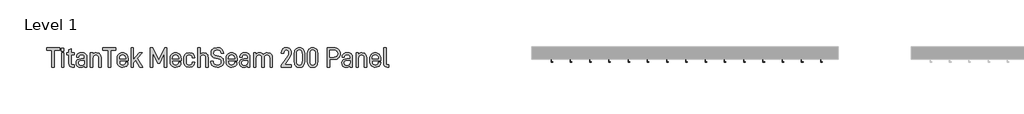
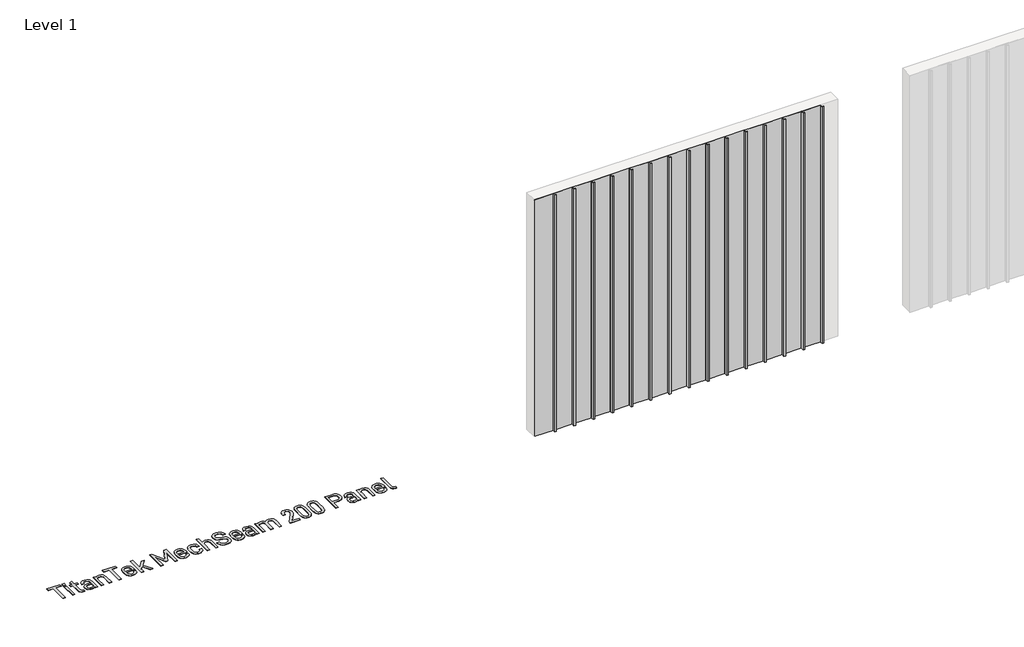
# One storey, part 23 of 33: 2 proxies.
"""IFC4 building model written with IfcOpenShell, lengths in millimetres."""

from ifc_helpers import new_model, si_unit, origin, origin_with_axes, place, context, project, spatial, polyline, outline, extrude, transform, mapped, element, save
from components import titantek_mechseam_200_panel_aluminum_slate_gray_48fcd1a1

model = new_model("IFC4")

# Units and contexts
model_context = context("Model", 3, world=origin())
ifc_project = project(units=[si_unit("LENGTHUNIT", "METRE", prefix="MILLI")], contexts=[model_context])

# Site, building, storey
site = spatial("IfcSite", under=ifc_project)
building = spatial("IfcBuilding", under=site)
storey = spatial("IfcBuildingStorey", under=building, Name="Level 1", Elevation=0.0)

# Proxies
placement = place(None, origin())
element("IfcBuildingElementProxy", 1, Name="600mm Arial 2", ObjectType="600mm Arial 2", at=placement, inside=storey, context=model_context, shape_type="SweptSolid", body=[
    extrude(outline(polyline([(-9914.9924556, 77220.4128343), (-9914.9924556, 76952.9873502), (-9954.4439015, 76952.9873502), (-9954.4439015, 77220.4128343), (-10038.8787304, 77220.4128343), (-10038.8787304, 77257.3166776), (-9830.5576267, 77257.3166776), (-9830.5576267, 77220.4128343), (-9914.9924556, 77220.4128343)])), origin_with_axes(), (0.0, 0.0, 1.0), 5.0),
    extrude(outline(polyline([(-9763.1553408, 77253.0221475), (-9763.1553408, 77205.8551051), (-9802.6067867, 77205.8551051), (-9802.6067867, 77253.0221475), (-9763.1553408, 77253.0221475)])), origin_with_axes(), (0.0, 0.0, 1.0), 5.0),
    extrude(outline(polyline([(-9764.0288046, 77178.8505176), (-9764.0288046, 76952.9873502), (-9801.733323, 76952.9873502), (-9801.733323, 77178.8505176), (-9764.0288046, 77178.8505176)])), origin_with_axes(), (0.0, 0.0, 1.0), 5.0),
    extrude(outline(polyline([(-9648.294858, 77012.601251), (-9646.8208879, 77001.5191797), (-9642.3989777, 76993.6034145), (-9635.0291273, 76988.8539554), (-9624.7113368, 76987.2708023), (-9603.2386864, 76987.2708023), (-9603.2386864, 76952.9873502), (-9629.3698101, 76952.9873502), (-9653.1535001, 76956.9543314), (-9671.3688587, 76968.855275), (-9682.6692959, 76987.3981825), (-9686.4361083, 77011.2910554), (-9686.4361083, 77147.1146681), (-9720.2828285, 77147.1146681), (-9720.2828285, 77178.8505176), (-9686.4361083, 77178.8505176), (-9686.4361083, 77226.8910237), (-9648.294858, 77244.8698192), (-9648.294858, 77178.8505176), (-9599.3808881, 77178.8505176), (-9599.3808881, 77147.1146681), (-9648.294858, 77147.1146681), (-9648.294858, 77012.601251)])), origin_with_axes(), (0.0, 0.0, 1.0), 5.0),
    extrude(outline(polyline([(-9422.8684225, 77162.1091291), (-9413.2830677, 77151.3409589), (-9406.4363858, 77138.2526505), (-9400.9590402, 77105.1156196), (-9400.9590402, 76952.9873502), (-9438.2996154, 76952.9873502), (-9438.2996154, 76969.2920069), (-9456.7151427, 76956.8451485), (-9473.7476858, 76952.0410978), (-9493.9829293, 76950.4397476), (-9526.0281305, 76954.7160806), (-9550.1029751, 76967.5450794), (-9565.2248162, 76989.3270816), (-9570.2654299, 77018.5699199), (-9565.1338304, 77046.2114081), (-9549.7390318, 77067.4111012), (-9525.063681, 77080.6222403), (-9493.1094655, 77085.0259534), (-9438.7363472, 77085.0259534), (-9438.7363472, 77105.5523515), (-9441.6296959, 77124.441005), (-9450.3097419, 77138.1616647), (-9464.2305704, 77146.1866129), (-9483.7197302, 77148.8615956), (-9502.2262434, 77146.6051476), (-9515.819523, 77139.8358036), (-9524.1720201, 77129.4816187), (-9526.9561857, 77115.4516073), (-9526.9561857, 77109.8468816), (-9563.8600291, 77109.8468816), (-9563.8600291, 77116.2522824), (-9558.4008807, 77143.2932642), (-9542.0234354, 77164.2927885), (-9516.8203668, 77177.4493362), (-9484.1564621, 77181.8348521), (-9448.6719974, 77176.9034213), (-9434.5600987, 77170.7391329), (-9422.8684225, 77162.1091291)]), holes=[polyline([(-9450.6736851, 76994.5496669), (-9441.7206817, 77009.4531421), (-9438.7363472, 77031.0167784), (-9438.7363472, 77054.9642428), (-9488.8149354, 77054.9642428), (-9507.9538, 77052.7168933), (-9521.6244175, 77045.974845), (-9529.826788, 77034.7380979), (-9532.5609115, 77019.0066518), (-9529.8540837, 77003.0522906), (-9521.7336004, 76991.6563182), (-9508.1994616, 76984.8187348), (-9489.2516673, 76982.5395404), (-9466.104878, 76985.542072), (-9450.6736851, 76994.5496669)])]), origin_with_axes(), (0.0, 0.0, 1.0), 5.0),
    extrude(outline(polyline([(-9306.6977441, 77178.8505176), (-9306.6977441, 77160.4349903), (-9288.2822167, 77173.6825238), (-9271.1222935, 77179.4692211), (-9252.2518372, 77181.3981202), (-9219.9154813, 77175.9389718), (-9206.7907787, 77169.1150363), (-9195.6950595, 77159.5615265), (-9187.0650557, 77147.9790333), (-9180.9007673, 77134.1946835), (-9175.9693365, 77100.0204144), (-9175.9693365, 76952.9873502), (-9213.673855, 76952.9873502), (-9213.673855, 77095.7258843), (-9216.6763866, 77118.1083928), (-9225.6839815, 77133.8671346), (-9240.3781893, 77143.4752358), (-9259.567096, 77146.6779363), (-9278.7378056, 77143.4752358), (-9293.3774219, 77133.8671346), (-9303.0401146, 77117.453295), (-9306.2610122, 77095.7258843), (-9306.2610122, 76952.9873502), (-9343.9655306, 76952.9873502), (-9343.9655306, 77178.8505176), (-9306.6977441, 77178.8505176)])), origin_with_axes(), (0.0, 0.0, 1.0), 5.0),
    extrude(outline(polyline([(-9025.2240514, 77220.4128343), (-9025.2240514, 76952.9873502), (-9064.6754974, 76952.9873502), (-9064.6754974, 77220.4128343), (-9149.1103263, 77220.4128343), (-9149.1103263, 77257.3166776), (-8940.7892225, 77257.3166776), (-8940.7892225, 77220.4128343), (-9025.2240514, 77220.4128343)])), origin_with_axes(), (0.0, 0.0, 1.0), 5.0),
    extrude(outline(polyline([(-8884.5235994, 77047.2486463), (-8881.1025331, 77017.8329349), (-8870.8393341, 76998.8805913), (-8854.3527058, 76988.5900965), (-8832.2613519, 76985.1599316), (-8812.990558, 76987.7257314), (-8798.8513635, 76995.4231306), (-8790.1713175, 77007.1966941), (-8787.2779689, 77022.86445), (-8787.2779689, 77028.3963871), (-8750.3741256, 77028.3963871), (-8750.3741256, 77021.9909863), (-8756.0516399, 76992.8391337), (-8763.1485329, 76980.528754), (-8773.084183, 76969.7287387), (-8799.7976159, 76955.2619954), (-8834.3722226, 76950.4397476), (-8853.3222916, 76951.9387388), (-8870.2843206, 76956.4357123), (-8885.2583098, 76963.9306682), (-8898.2442591, 76974.4236064), (-8908.7371973, 76988.0237099), (-8916.2321532, 77004.8401617), (-8920.7291267, 77024.8729617), (-8922.2281179, 77048.1221101), (-8922.2281179, 77085.8266285), (-8920.7314014, 77108.5321367), (-8916.2412518, 77128.1714231), (-8908.7576691, 77144.7444879), (-8898.2806535, 77158.2513309), (-8885.4971476, 77168.5691214), (-8870.7301511, 77175.9389718), (-8853.979664, 77180.360882), (-8835.2456864, 77181.8348521), (-8816.8438069, 77180.360882), (-8800.2161506, 77175.9389718), (-8785.3627176, 77168.5691214), (-8772.2835079, 77158.2513309), (-8761.9657174, 77144.9082623), (-8754.595867, 77128.389789), (-8750.1739568, 77108.6959111), (-8748.6999867, 77085.8266285), (-8748.6999867, 77055.8377065), (-8884.5235994, 77055.8377065), (-8884.5235994, 77047.2486463)]), holes=[polyline([(-8871.2760659, 77133.4304027), (-8881.2117161, 77115.30603), (-8884.5235994, 77086.7000923), (-8786.4045051, 77086.2633604), (-8786.4045051, 77089.6844267), (-8789.6254027, 77116.9255774), (-8799.2880954, 77134.3038665), (-8814.9012599, 77143.5844188), (-8835.2456864, 77146.6779363), (-8855.60831, 77143.3660529), (-8871.2760659, 77133.4304027)])]), origin_with_axes(), (0.0, 0.0, 1.0), 5.0),
    extrude(outline(polyline([(-8663.391694, 77020.3168474), (-8663.391694, 76952.9873502), (-8701.0962125, 76952.9873502), (-8701.0962125, 77257.3166776), (-8663.391694, 77257.3166776), (-8663.391694, 77070.8321675), (-8575.0990669, 77178.8505176), (-8528.3687564, 77178.8505176), (-8602.5403863, 77091.8680861), (-8517.6688255, 76952.9873502), (-8563.5256722, 76952.9873502), (-8627.7980463, 77062.6798392), (-8663.391694, 77020.3168474)])), origin_with_axes(), (0.0, 0.0, 1.0), 5.0),
    extrude(outline(polyline([(-8171.6316042, 77257.3166776), (-8133.4175652, 77257.3166776), (-8133.4175652, 76952.9873502), (-8173.305743, 76952.9873502), (-8173.305743, 77170.2614574), (-8250.0249755, 77012.1645191), (-8279.1404338, 77012.1645191), (-8356.2963981, 77170.2614574), (-8356.2963981, 76952.9873502), (-8396.1845759, 76952.9873502), (-8396.1845759, 77257.3166776), (-8358.0433256, 77257.3166776), (-8264.5827046, 77063.5533029), (-8171.6316042, 77257.3166776)])), origin_with_axes(), (0.0, 0.0, 1.0), 5.0),
    extrude(outline(polyline([(-8045.9984018, 77047.2486463), (-8042.5773355, 77017.8329349), (-8032.3141364, 76998.8805913), (-8015.8275082, 76988.5900965), (-7993.7361543, 76985.1599316), (-7974.4653603, 76987.7257314), (-7960.3261659, 76995.4231306), (-7951.6461199, 77007.1966941), (-7948.7527713, 77022.86445), (-7948.7527713, 77028.3963871), (-7911.8489279, 77028.3963871), (-7911.8489279, 77021.9909863), (-7917.5264423, 76992.8391337), (-7924.6233352, 76980.528754), (-7934.5589854, 76969.7287387), (-7961.2724183, 76955.2619954), (-7995.847025, 76950.4397476), (-8014.7970939, 76951.9387388), (-8031.759123, 76956.4357123), (-8046.7331122, 76963.9306682), (-8059.7190615, 76974.4236064), (-8070.2119997, 76988.0237099), (-8077.7069556, 77004.8401617), (-8082.2039291, 77024.8729617), (-8083.7029202, 77048.1221101), (-8083.7029202, 77085.8266285), (-8082.2062037, 77108.5321367), (-8077.7160541, 77128.1714231), (-8070.2324715, 77144.7444879), (-8059.7554558, 77158.2513309), (-8046.9719499, 77168.5691214), (-8032.2049535, 77175.9389718), (-8015.4544664, 77180.360882), (-7996.7204887, 77181.8348521), (-7978.3186093, 77180.360882), (-7961.690953, 77175.9389718), (-7946.83752, 77168.5691214), (-7933.7583103, 77158.2513309), (-7923.4405197, 77144.9082623), (-7916.0706694, 77128.389789), (-7911.6487591, 77108.6959111), (-7910.1747891, 77085.8266285), (-7910.1747891, 77055.8377065), (-8045.9984018, 77055.8377065), (-8045.9984018, 77047.2486463)]), holes=[polyline([(-8032.7508683, 77133.4304027), (-8042.6865184, 77115.30603), (-8045.9984018, 77086.7000923), (-7947.8793075, 77086.2633604), (-7947.8793075, 77089.6844267), (-7951.1002051, 77116.9255774), (-7960.7628978, 77134.3038665), (-7976.3760623, 77143.5844188), (-7996.7204887, 77146.6779363), (-8017.0831123, 77143.3660529), (-8032.7508683, 77133.4304027)])]), origin_with_axes(), (0.0, 0.0, 1.0), 5.0),
    extrude(outline(polyline([(-7845.0289512, 76972.7130732), (-7855.6970371, 76985.6740014), (-7863.3170984, 77001.8467286), (-7867.8891353, 77021.2312548), (-7869.4131475, 77043.82758), (-7869.4131475, 77088.4470198), (-7867.8891353, 77110.8522747), (-7863.3170984, 77130.1003222), (-7855.6970371, 77146.1911622), (-7845.0289512, 77159.1247947), (-7832.004333, 77169.0604448), (-7816.9507312, 77176.1573377), (-7780.7565771, 77181.8348521), (-7745.5996613, 77176.5940696), (-7731.242101, 77170.0430915), (-7719.0318057, 77160.8717222), (-7708.9050853, 77149.6622707), (-7701.6717137, 77136.6331032), (-7695.8850163, 77105.1156196), (-7695.8850163, 77098.7102188), (-7732.716071, 77098.7102188), (-7732.716071, 77105.1156196), (-7735.8277856, 77123.0216264), (-7745.1629294, 77135.5412735), (-7759.9572217, 77143.8937706), (-7779.4463815, 77146.6779363), (-7801.7197071, 77143.3660529), (-7818.0243637, 77133.4304027), (-7828.2875627, 77115.30603), (-7831.7086291, 77086.7000923), (-7831.7086291, 77045.5745075), (-7828.3967457, 77016.8593868), (-7818.4610956, 76998.4074651), (-7801.938073, 76988.471815), (-7779.8831134, 76985.1599316), (-7760.0664046, 76987.9440973), (-7745.1629294, 76996.2965944), (-7735.8277856, 77008.8162414), (-7732.716071, 77026.7222483), (-7732.716071, 77033.1276491), (-7695.8850163, 77033.1276491), (-7695.8850163, 77027.1589801), (-7701.6717137, 76995.6414966), (-7708.9050853, 76982.612329), (-7719.0318057, 76971.4028776), (-7731.3785797, 76962.2315082), (-7745.7088443, 76955.6805301), (-7780.3198453, 76950.4397476), (-7817.0599142, 76956.008079), (-7832.1408117, 76962.9684933), (-7845.0289512, 76972.7130732)])), origin_with_axes(), (0.0, 0.0, 1.0), 5.0),
    extrude(outline(polyline([(-7610.5767237, 77257.3166776), (-7610.5767237, 77159.9982584), (-7586.9932025, 77176.0481548), (-7556.5675486, 77181.3981202), (-7524.7771076, 77176.0481548), (-7511.6797007, 77169.3606979), (-7500.4475028, 77159.9982584), (-7491.6264288, 77148.224695), (-7485.3256617, 77134.3038665), (-7480.285048, 77100.0204144), (-7480.285048, 76952.9873502), (-7517.9895664, 76952.9873502), (-7517.9895664, 77095.7258843), (-7520.9920981, 77118.1083928), (-7529.999693, 77133.8671346), (-7544.6939008, 77143.4752358), (-7563.8828075, 77146.6779363), (-7583.053517, 77143.4752358), (-7597.6931334, 77133.8671346), (-7607.3558261, 77117.453295), (-7610.5767237, 77095.7258843), (-7610.5767237, 76952.9873502), (-7648.2812421, 76952.9873502), (-7648.2812421, 77257.3166776), (-7610.5767237, 77257.3166776)])), origin_with_axes(), (0.0, 0.0, 1.0), 5.0),
    extrude(outline(polyline([(-7412.300453, 76973.1498051), (-7424.4880018, 76986.7931268), (-7433.6821176, 77003.3388959), (-7439.8828004, 77022.7871121), (-7443.0900501, 77045.1377756), (-7403.7113928, 77045.1377756), (-7398.1112164, 77019.4388344), (-7385.1684853, 77001.0824478), (-7364.8831996, 76990.0686159), (-7337.2553593, 76986.3973386), (-7309.2135336, 76989.7274191), (-7289.2876419, 76999.7176607), (-7277.3866983, 77015.5855855), (-7273.4197171, 77037.4221792), (-7276.5314317, 77057.020522), (-7285.8665755, 77071.2688994), (-7302.1166407, 77081.0225779), (-7325.2452328, 77087.1368241), (-7358.7280098, 77092.7415498), (-7391.5010975, 77102.3678482), (-7416.1582512, 77118.4359417), (-7425.1385504, 77129.313295), (-7431.5530497, 77142.2196317), (-7436.6846493, 77174.1192557), (-7434.9422711, 77193.5902184), (-7429.7151364, 77210.8047331), (-7421.0032454, 77225.7627997), (-7408.806598, 77238.4644184), (-7394.0714465, 77248.4000685), (-7377.2345229, 77255.4969615), (-7337.2553593, 77261.1744758), (-7300.0967557, 77255.8063132), (-7284.1651409, 77249.0961099), (-7269.9986508, 77239.7018254), (-7257.560891, 77226.8455308), (-7248.1256628, 77210.9867047), (-7241.6929662, 77192.1253469), (-7238.2628013, 77170.2614574), (-7277.7142472, 77170.2614574), (-7282.5819879, 77194.4636821), (-7294.2008754, 77211.7509854), (-7312.5709099, 77222.1233674), (-7337.6920912, 77225.5808281), (-7363.6048491, 77222.2507476), (-7382.2387423, 77212.260506), (-7393.812137, 77196.6473415), (-7397.6699352, 77176.302915), (-7394.7765865, 77158.5060912), (-7386.0965406, 77145.4405293), (-7370.6653477, 77135.9052167), (-7348.3920221, 77129.5726045), (-7314.10857, 77123.6039356), (-7280.0434839, 77113.613694), (-7255.0041898, 77096.5993481), (-7245.8009754, 77085.285263), (-7239.2272508, 77071.9421944), (-7233.9682712, 77039.1691067), (-7235.7652409, 77019.1567784), (-7241.1561499, 77001.555574), (-7250.1409984, 76986.3654935), (-7262.7197862, 76973.586537), (-7278.1054862, 76963.4598166), (-7296.0205916, 76956.226445), (-7316.4651024, 76951.886422), (-7339.4390187, 76950.4397476), (-7380.3644347, 76956.117262), (-7397.4561186, 76963.2141549), (-7412.300453, 76973.1498051)])), origin_with_axes(), (0.0, 0.0, 1.0), 5.0),
    extrude(outline(polyline([(-7160.888471, 77047.2486463), (-7157.4674046, 77017.8329349), (-7147.2042056, 76998.8805913), (-7130.7175774, 76988.5900965), (-7108.6262234, 76985.1599316), (-7089.3554295, 76987.7257314), (-7075.2162351, 76995.4231306), (-7066.5361891, 77007.1966941), (-7063.6428404, 77022.86445), (-7063.6428404, 77028.3963871), (-7026.7389971, 77028.3963871), (-7026.7389971, 77021.9909863), (-7032.4165115, 76992.8391337), (-7039.5134044, 76980.528754), (-7049.4490545, 76969.7287387), (-7076.1624875, 76955.2619954), (-7110.7370941, 76950.4397476), (-7129.6871631, 76951.9387388), (-7146.6491922, 76956.4357123), (-7161.6231814, 76963.9306682), (-7174.6091307, 76974.4236064), (-7185.1020689, 76988.0237099), (-7192.5970247, 77004.8401617), (-7197.0939982, 77024.8729617), (-7198.5929894, 77048.1221101), (-7198.5929894, 77085.8266285), (-7197.0962729, 77108.5321367), (-7192.6061233, 77128.1714231), (-7185.1225407, 77144.7444879), (-7174.645525, 77158.2513309), (-7161.8620191, 77168.5691214), (-7147.0950226, 77175.9389718), (-7130.3445356, 77180.360882), (-7111.6105579, 77181.8348521), (-7093.2086784, 77180.360882), (-7076.5810222, 77175.9389718), (-7061.7275892, 77168.5691214), (-7048.6483794, 77158.2513309), (-7038.3305889, 77144.9082623), (-7030.9607385, 77128.389789), (-7026.5388283, 77108.6959111), (-7025.0648582, 77085.8266285), (-7025.0648582, 77055.8377065), (-7160.888471, 77055.8377065), (-7160.888471, 77047.2486463)]), holes=[polyline([(-7147.6409375, 77133.4304027), (-7157.5765876, 77115.30603), (-7160.888471, 77086.7000923), (-7062.7693767, 77086.2633604), (-7062.7693767, 77089.6844267), (-7065.9902742, 77116.9255774), (-7075.652967, 77134.3038665), (-7091.2661314, 77143.5844188), (-7111.6105579, 77146.6779363), (-7131.9731815, 77143.3660529), (-7147.6409375, 77133.4304027)])]), origin_with_axes(), (0.0, 0.0, 1.0), 5.0),
    extrude(outline(polyline([(-6842.0742031, 77162.1091291), (-6832.4888484, 77151.3409589), (-6825.6421664, 77138.2526505), (-6820.1648208, 77105.1156196), (-6820.1648208, 76952.9873502), (-6857.505396, 76952.9873502), (-6857.505396, 76969.2920069), (-6875.9209234, 76956.8451485), (-6892.9534664, 76952.0410978), (-6913.1887099, 76950.4397476), (-6945.2339112, 76954.7160806), (-6969.3087557, 76967.5450794), (-6984.4305968, 76989.3270816), (-6989.4712105, 77018.5699199), (-6984.339611, 77046.2114081), (-6968.9448125, 77067.4111012), (-6944.2694616, 77080.6222403), (-6912.3152462, 77085.0259534), (-6857.9421279, 77085.0259534), (-6857.9421279, 77105.5523515), (-6860.8354765, 77124.441005), (-6869.5155225, 77138.1616647), (-6883.436351, 77146.1866129), (-6902.9255109, 77148.8615956), (-6921.432024, 77146.6051476), (-6935.0253036, 77139.8358036), (-6943.3778007, 77129.4816187), (-6946.1619664, 77115.4516073), (-6946.1619664, 77109.8468816), (-6983.0658097, 77109.8468816), (-6983.0658097, 77116.2522824), (-6977.6066613, 77143.2932642), (-6961.229216, 77164.2927885), (-6936.0261475, 77177.4493362), (-6903.3622428, 77181.8348521), (-6867.877778, 77176.9034213), (-6853.7658793, 77170.7391329), (-6842.0742031, 77162.1091291)]), holes=[polyline([(-6869.8794658, 76994.5496669), (-6860.9264624, 77009.4531421), (-6857.9421279, 77031.0167784), (-6857.9421279, 77054.9642428), (-6908.0207161, 77054.9642428), (-6927.1595806, 77052.7168933), (-6940.8301981, 77045.974845), (-6949.0325686, 77034.7380979), (-6951.7666921, 77019.0066518), (-6949.0598643, 77003.0522906), (-6940.9393811, 76991.6563182), (-6927.4052423, 76984.8187348), (-6908.4574479, 76982.5395404), (-6885.3106586, 76985.542072), (-6869.8794658, 76994.5496669)])]), origin_with_axes(), (0.0, 0.0, 1.0), 5.0),
    extrude(outline(polyline([(-6725.9035247, 77178.8505176), (-6725.9035247, 77159.9982584), (-6707.4879974, 77173.3185806), (-6690.5464401, 77179.3782353), (-6671.4576178, 77181.3981202), (-6649.8211929, 77178.9415034), (-6631.2054968, 77171.5716531), (-6619.0861873, 77162.1455234), (-6608.4954393, 77149.2983275), (-6596.0440316, 77163.3419868), (-6580.9631341, 77173.373172), (-6563.2527468, 77179.3918832), (-6542.9128696, 77181.3981202), (-6510.4309365, 77175.9389718), (-6497.1788537, 77169.1150363), (-6485.9193601, 77159.5615265), (-6476.9072159, 77147.9790333), (-6470.46997, 77134.1946835), (-6465.3201734, 77100.0204144), (-6465.3201734, 76952.9873502), (-6503.0246918, 76952.9873502), (-6503.0246918, 77095.7258843), (-6506.0272234, 77118.1083928), (-6515.0348183, 77133.8671346), (-6529.1740127, 77143.4752358), (-6548.4448067, 77146.6779363), (-6568.1887268, 77143.4752358), (-6582.7282588, 77133.8671346), (-6592.0634026, 77117.7626468), (-6595.1751172, 77096.9632913), (-6595.1751172, 76952.9873502), (-6633.3163675, 76952.9873502), (-6633.3163675, 77095.7258843), (-6636.3188991, 77118.1083928), (-6645.326494, 77133.8671346), (-6659.4656884, 77143.4752358), (-6678.7364823, 77146.6779363), (-6697.9344876, 77143.4752358), (-6712.5832026, 77133.8671346), (-6722.2458953, 77117.453295), (-6725.4667928, 77095.7258843), (-6725.4667928, 76952.9873502), (-6763.1713113, 76952.9873502), (-6763.1713113, 77178.8505176), (-6725.9035247, 77178.8505176)])), origin_with_axes(), (0.0, 0.0, 1.0), 5.0),
    extrude(outline(polyline([(-6222.5700402, 77127.4617338), (-6209.0313521, 77153.2471115), (-6204.5184561, 77176.7396469), (-6204.5184561, 77183.1450477), (-6207.211636, 77200.9418716), (-6215.2911756, 77214.0074335), (-6228.1383716, 77222.3599305), (-6244.4066339, 77225.1440962), (-6260.7840792, 77222.4691135), (-6273.0853603, 77214.4441653), (-6280.837351, 77200.6143227), (-6283.4213479, 77181.3981202), (-6283.4213479, 77169.4607823), (-6322.8000052, 77169.4607823), (-6322.8000052, 77183.1450477), (-6317.4500398, 77214.7535171), (-6301.4001434, 77240.1385572), (-6275.7967373, 77256.1884536), (-6243.5331701, 77261.5384191), (-6221.3508304, 77258.9726193), (-6201.9708535, 77251.27522), (-6186.0119429, 77239.3924736), (-6174.0928022, 77223.3971687), (-6166.7229518, 77204.9998386), (-6164.2663351, 77184.0185115), (-6164.2663351, 77176.7396469), (-6165.9768682, 77158.0875565), (-6171.1084677, 77140.7092673), (-6190.8341907, 77105.9890833), (-6271.8479533, 76989.4544617), (-6164.2663351, 76989.4544617), (-6164.2663351, 76952.9873502), (-6322.8000052, 76952.9873502), (-6322.8000052, 76983.849736), (-6222.5700402, 77127.4617338)])), origin_with_axes(), (0.0, 0.0, 1.0), 5.0),
    extrude(outline(polyline([(-6119.501318, 77164.2927885), (-6114.4152114, 77206.8377519), (-6108.0575781, 77223.5518446), (-6099.1568915, 77237.2270114), (-6087.7131517, 77247.8632523), (-6073.7263585, 77255.4605671), (-6057.196512, 77260.0189561), (-6038.1236122, 77261.5384191), (-6018.9312935, 77260.0189561), (-6002.2979507, 77255.4605671), (-5988.2235836, 77247.8632523), (-5976.7081924, 77237.2270114), (-5967.7517771, 77223.5518446), (-5961.3543375, 77206.8377519), (-5956.2363858, 77164.2927885), (-5956.2363858, 77047.6853782), (-5961.3543375, 77004.3761341), (-5967.7517771, 76987.3617881), (-5976.7081924, 76973.4409597), (-5988.2235836, 76962.6136486), (-6002.2979507, 76954.879855), (-6018.9312935, 76950.2395789), (-6038.1236122, 76948.6928201), (-6057.196512, 76950.2395789), (-6073.7263585, 76954.879855), (-6087.7131517, 76962.6136486), (-6099.1568915, 76973.4409597), (-6108.0575781, 76987.3617881), (-6114.4152114, 77004.3761341), (-6119.501318, 77047.6853782), (-6119.501318, 77164.2927885)]), holes=[polyline([(-6005.9510308, 77000.1543926), (-5998.5811804, 77021.4814658), (-5996.1245637, 77053.7268358), (-5996.1245637, 77156.5771921), (-5998.5811804, 77188.8225621), (-6005.9510308, 77210.1496352), (-6018.6799452, 77221.0679321), (-6038.0872179, 77224.7073644), (-6057.3853075, 77221.0679321), (-6069.786673, 77210.1496352), (-6077.2111149, 77188.8225621), (-6079.6859288, 77156.5771921), (-6079.6859288, 77053.7268358), (-6077.2111149, 77021.4814658), (-6069.786673, 77000.1543926), (-6057.3853075, 76989.2360958), (-6038.0872179, 76985.5966635), (-6018.6799452, 76989.2360958), (-6005.9510308, 77000.1543926)])]), origin_with_axes(), (0.0, 0.0, 1.0), 5.0),
    extrude(outline(polyline([(-5909.8700186, 77164.2927885), (-5904.783912, 77206.8377519), (-5898.4262787, 77223.5518446), (-5889.5255921, 77237.2270114), (-5878.0818523, 77247.8632523), (-5864.0950591, 77255.4605671), (-5847.5652126, 77260.0189561), (-5828.4923128, 77261.5384191), (-5809.2999941, 77260.0189561), (-5792.6666513, 77255.4605671), (-5778.5922842, 77247.8632523), (-5767.076893, 77237.2270114), (-5758.1204776, 77223.5518446), (-5751.7230381, 77206.8377519), (-5746.6050864, 77164.2927885), (-5746.6050864, 77047.6853782), (-5751.7230381, 77004.3761341), (-5758.1204776, 76987.3617881), (-5767.076893, 76973.4409597), (-5778.5922842, 76962.6136486), (-5792.6666513, 76954.879855), (-5809.2999941, 76950.2395789), (-5828.4923128, 76948.6928201), (-5847.5652126, 76950.2395789), (-5864.0950591, 76954.879855), (-5878.0818523, 76962.6136486), (-5889.5255921, 76973.4409597), (-5898.4262787, 76987.3617881), (-5904.783912, 77004.3761341), (-5909.8700186, 77047.6853782), (-5909.8700186, 77164.2927885)]), holes=[polyline([(-5796.3197314, 77000.1543926), (-5788.949881, 77021.4814658), (-5786.4932642, 77053.7268358), (-5786.4932642, 77156.5771921), (-5788.949881, 77188.8225621), (-5796.3197314, 77210.1496352), (-5809.0486458, 77221.0679321), (-5828.4559184, 77224.7073644), (-5847.7540081, 77221.0679321), (-5860.1553736, 77210.1496352), (-5867.5798155, 77188.8225621), (-5870.0546294, 77156.5771921), (-5870.0546294, 77053.7268358), (-5867.5798155, 77021.4814658), (-5860.1553736, 77000.1543926), (-5847.7540081, 76989.2360958), (-5828.4559184, 76985.5966635), (-5809.0486458, 76989.2360958), (-5796.3197314, 77000.1543926)])]), origin_with_axes(), (0.0, 0.0, 1.0), 5.0),
    extrude(outline(polyline([(-5419.3473357, 77233.2964245), (-5407.914969, 77219.8396237), (-5399.7489929, 77203.926206), (-5394.8494072, 77185.5561716), (-5393.2162119, 77164.7295204), (-5394.8767029, 77145.044741), (-5399.8581758, 77127.5527196), (-5408.1606307, 77112.2534562), (-5419.7840676, 77099.1469507), (-5433.8413748, 77088.6380899), (-5450.3189044, 77081.1317609), (-5469.2166565, 77076.6279634), (-5490.5346311, 77075.1266976), (-5561.212406, 77075.1266976), (-5561.212406, 76952.9873502), (-5601.1005838, 76952.9873502), (-5601.1005838, 77257.3166776), (-5490.5346311, 77257.3166776), (-5469.3531352, 77255.8154118), (-5450.4280874, 77251.3116143), (-5433.7594875, 77243.8052853), (-5419.3473357, 77233.2964245)]), holes=[polyline([(-5448.0988507, 77125.2780744), (-5436.853005, 77141.5827311), (-5433.1043897, 77164.7295204), (-5436.9621879, 77189.3502798), (-5448.5355826, 77206.7285689), (-5467.6062078, 77216.9917679), (-5493.0822337, 77220.4128343), (-5561.212406, 77220.4128343), (-5561.212406, 77112.0305409), (-5493.0822337, 77112.0305409), (-5466.841927, 77115.3424243), (-5448.0988507, 77125.2780744)])]), origin_with_axes(), (0.0, 0.0, 1.0), 5.0),
    extrude(outline(polyline([(-5220.9254877, 77162.1091291), (-5211.3401329, 77151.3409589), (-5204.493451, 77138.2526505), (-5199.0161054, 77105.1156196), (-5199.0161054, 76952.9873502), (-5236.3566806, 76952.9873502), (-5236.3566806, 76969.2920069), (-5254.7722079, 76956.8451485), (-5271.804751, 76952.0410978), (-5292.0399945, 76950.4397476), (-5324.0851957, 76954.7160806), (-5348.1600403, 76967.5450794), (-5363.2818814, 76989.3270816), (-5368.3224951, 77018.5699199), (-5363.1908956, 77046.2114081), (-5347.796097, 77067.4111012), (-5323.1207462, 77080.6222403), (-5291.1665308, 77085.0259534), (-5236.7934125, 77085.0259534), (-5236.7934125, 77105.5523515), (-5239.6867611, 77124.441005), (-5248.3668071, 77138.1616647), (-5262.2876356, 77146.1866129), (-5281.7767955, 77148.8615956), (-5300.2833086, 77146.6051476), (-5313.8765882, 77139.8358036), (-5322.2290853, 77129.4816187), (-5325.013251, 77115.4516073), (-5325.013251, 77109.8468816), (-5361.9170943, 77109.8468816), (-5361.9170943, 77116.2522824), (-5356.4579459, 77143.2932642), (-5340.0805006, 77164.2927885), (-5314.8774321, 77177.4493362), (-5282.2135273, 77181.8348521), (-5246.7290626, 77176.9034213), (-5232.6171639, 77170.7391329), (-5220.9254877, 77162.1091291)]), holes=[polyline([(-5248.7307503, 76994.5496669), (-5239.7777469, 77009.4531421), (-5236.7934125, 77031.0167784), (-5236.7934125, 77054.9642428), (-5286.8720007, 77054.9642428), (-5306.0108652, 77052.7168933), (-5319.6814827, 77045.974845), (-5327.8838532, 77034.7380979), (-5330.6179767, 77019.0066518), (-5327.9111489, 77003.0522906), (-5319.7906656, 76991.6563182), (-5306.2565268, 76984.8187348), (-5287.3087325, 76982.5395404), (-5264.1619432, 76985.542072), (-5248.7307503, 76994.5496669)])]), origin_with_axes(), (0.0, 0.0, 1.0), 5.0),
    extrude(outline(polyline([(-5104.7548093, 77178.8505176), (-5104.7548093, 77160.4349903), (-5086.339282, 77173.6825238), (-5069.1793587, 77179.4692211), (-5050.3089024, 77181.3981202), (-5017.9725465, 77175.9389718), (-5004.8478439, 77169.1150363), (-4993.7521247, 77159.5615265), (-4985.1221209, 77147.9790333), (-4978.9578325, 77134.1946835), (-4974.0264018, 77100.0204144), (-4974.0264018, 76952.9873502), (-5011.7309202, 76952.9873502), (-5011.7309202, 77095.7258843), (-5014.7334518, 77118.1083928), (-5023.7410467, 77133.8671346), (-5038.4352546, 77143.4752358), (-5057.6241613, 77146.6779363), (-5076.7948708, 77143.4752358), (-5091.4344871, 77133.8671346), (-5101.0971799, 77117.453295), (-5104.3180774, 77095.7258843), (-5104.3180774, 76952.9873502), (-5142.0225959, 76952.9873502), (-5142.0225959, 77178.8505176), (-5104.7548093, 77178.8505176)])), origin_with_axes(), (0.0, 0.0, 1.0), 5.0),
    extrude(outline(polyline([(-4887.5534907, 77047.2486463), (-4884.1324244, 77017.8329349), (-4873.8692254, 76998.8805913), (-4857.3825971, 76988.5900965), (-4835.2912432, 76985.1599316), (-4816.0204493, 76987.7257314), (-4801.8812548, 76995.4231306), (-4793.2012089, 77007.1966941), (-4790.3078602, 77022.86445), (-4790.3078602, 77028.3963871), (-4753.4040169, 77028.3963871), (-4753.4040169, 77021.9909863), (-4759.0815312, 76992.8391337), (-4766.1784242, 76980.528754), (-4776.1140743, 76969.7287387), (-4802.8275072, 76955.2619954), (-4837.4021139, 76950.4397476), (-4856.3521829, 76951.9387388), (-4873.3142119, 76956.4357123), (-4888.2882011, 76963.9306682), (-4901.2741504, 76974.4236064), (-4911.7670886, 76988.0237099), (-4919.2620445, 77004.8401617), (-4923.759018, 77024.8729617), (-4925.2580092, 77048.1221101), (-4925.2580092, 77085.8266285), (-4923.7612927, 77108.5321367), (-4919.2711431, 77128.1714231), (-4911.7875604, 77144.7444879), (-4901.3105448, 77158.2513309), (-4888.5270389, 77168.5691214), (-4873.7600424, 77175.9389718), (-4857.0095553, 77180.360882), (-4838.2755777, 77181.8348521), (-4819.8736982, 77180.360882), (-4803.2460419, 77175.9389718), (-4788.3926089, 77168.5691214), (-4775.3133992, 77158.2513309), (-4764.9956087, 77144.9082623), (-4757.6257583, 77128.389789), (-4753.2038481, 77108.6959111), (-4751.729878, 77085.8266285), (-4751.729878, 77055.8377065), (-4887.5534907, 77055.8377065), (-4887.5534907, 77047.2486463)]), holes=[polyline([(-4874.3059572, 77133.4304027), (-4884.2416074, 77115.30603), (-4887.5534907, 77086.7000923), (-4789.4343964, 77086.2633604), (-4789.4343964, 77089.6844267), (-4792.655294, 77116.9255774), (-4802.3179867, 77134.3038665), (-4817.9311512, 77143.5844188), (-4838.2755777, 77146.6779363), (-4858.6382013, 77143.3660529), (-4874.3059572, 77133.4304027)])]), origin_with_axes(), (0.0, 0.0, 1.0), 5.0),
    extrude(outline(polyline([(-4689.1316428, 76968.855275), (-4700.3774885, 76988.362632), (-4704.1261038, 77014.2753899), (-4704.1261038, 77257.3166776), (-4666.4215853, 77257.3166776), (-4666.4215853, 77016.0223174), (-4665.0386011, 77002.6110094), (-4660.8896483, 76994.112935), (-4653.9019383, 76989.6364333), (-4643.274796, 76988.1442661), (-4621.4382023, 76988.1442661), (-4621.4382023, 76952.9873502), (-4646.2591305, 76952.9873502), (-4671.1346501, 76956.9543314), (-4689.1316428, 76968.855275)])), origin_with_axes(), (0.0, 0.0, 1.0), 5.0),
])
titantek_mechseam_200_panel_aluminum_slate_gray_shape = titantek_mechseam_200_panel_aluminum_slate_gray_48fcd1a1(model_context)
element("IfcBuildingElementProxy", 2, Name="TitanTek MechSeam 200 Panel : Aluminum Slate Gray", ObjectType="TitanTek MechSeam 200 Panel : Aluminum Slate Gray", at=placement, inside=storey, context=model_context, shape_type="MappedRepresentation", body=[
    mapped(titantek_mechseam_200_panel_aluminum_slate_gray_shape, transform((-2360.5897817, 77078.6095025, 0.0), x_axis=(1.0, 0.0, 0.0), y_axis=(0.0, 1.0, 0.0), z_axis=(0.0, 0.0, 1.0))),
])

save(model, "model.ifc")
